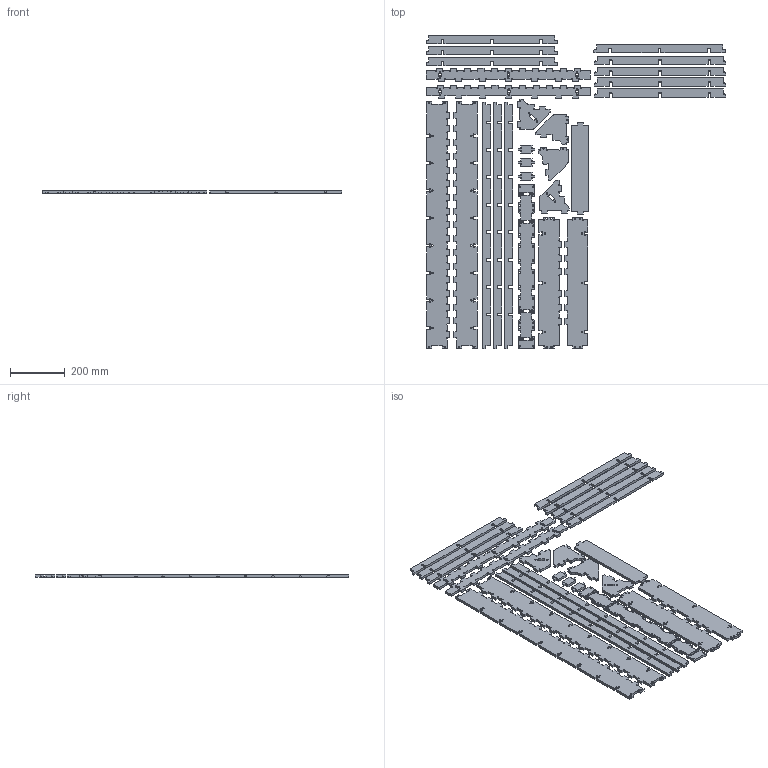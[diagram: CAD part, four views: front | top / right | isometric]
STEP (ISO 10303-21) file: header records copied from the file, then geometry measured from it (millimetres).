
FILE_DESCRIPTION(/* description */ (''),/* implementation_level */ '2;1');
FILE_NAME(/* name */ 'HDPE-O~1',/* time_stamp */ '2017-11-06T11:22:54-05:00',/* author */ (''),/* organization */ (''),/* preprocessor_version */ 'ST-DEVELOPER v15',/* originating_system */ '',/* authorisation */ '');
FILE_SCHEMA (('AUTOMOTIVE_DESIGN'));
Products named in the file (1): Document
Bounding box: 1091.3 x 1141.12 x 9.5 mm (x, y, z)
Volume: 4953289.9 mm3; surface area: 1362761.5 mm2
Topology: 26 solids, 26 shells, 2564 faces, 7512 edges, 5008 vertices
Faces by surface type: bspline 1500, plane 1064
Entity records: 83231 total; most frequent: CARTESIAN_POINT 41065, ORIENTED_EDGE 15024, EDGE_CURVE 7512, VERTEX_POINT 5008, B_SPLINE_CURVE_WITH_KNOTS 3070, EDGE_LOOP 2784, ADVANCED_FACE 2564, FACE_OUTER_BOUND 2564
